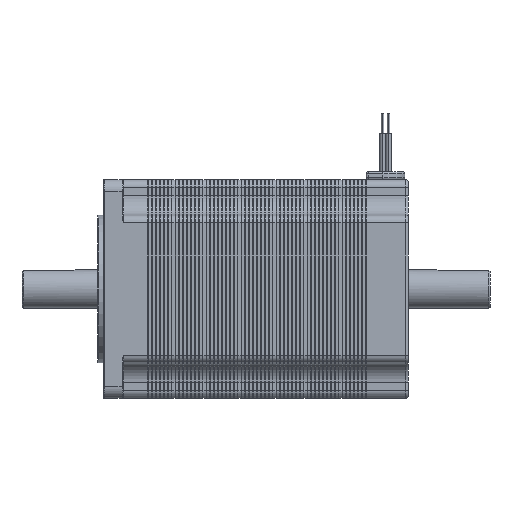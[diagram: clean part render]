
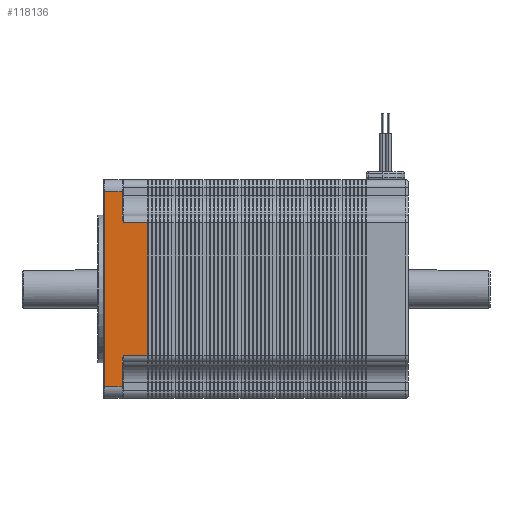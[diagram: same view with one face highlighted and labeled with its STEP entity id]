
A CAD part, left-side view. The second image highlights one B-rep face of the part: STEP entity #118136.
In plain terms, the highlighted planar face has unit normal (-1, 0, 0).
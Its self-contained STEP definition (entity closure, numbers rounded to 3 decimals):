
#779 = VERTEX_POINT ( 'NONE', #185071 ) ;
#841 = CARTESIAN_POINT ( 'NONE',  ( -28.15, 78.5, 17. ) ) ;
#3346 = VERTEX_POINT ( 'NONE', #146123 ) ;
#4201 = DIRECTION ( 'NONE',  ( 0., 0., -1. ) ) ;
#6299 = DIRECTION ( 'NONE',  ( 0., 1., 0. ) ) ;
#9586 = EDGE_CURVE ( 'NONE', #31187, #3346, #57196, .T. ) ;
#9590 = LINE ( 'NONE', #72379, #76345 ) ;
#9665 = ORIENTED_EDGE ( 'NONE', *, *, #19987, .F. ) ;
#15838 = CARTESIAN_POINT ( 'NONE',  ( -28.15, 67.1, -17. ) ) ;
#16555 = VERTEX_POINT ( 'NONE', #177327 ) ;
#19987 = EDGE_CURVE ( 'NONE', #33801, #100882, #60681, .T. ) ;
#27002 = CARTESIAN_POINT ( 'NONE',  ( -28.15, 73.395, -17.201 ) ) ;
#31187 = VERTEX_POINT ( 'NONE', #176881 ) ;
#32083 = CARTESIAN_POINT ( 'NONE',  ( -28.15, 73.7, 18.04 ) ) ;
#33801 = VERTEX_POINT ( 'NONE', #61657 ) ;
#34428 = CARTESIAN_POINT ( 'NONE',  ( -28.15, 73.5, 25.15 ) ) ;
#40560 = CARTESIAN_POINT ( 'NONE',  ( -28.15, 73.7, -18.265 ) ) ;
#43657 = EDGE_CURVE ( 'NONE', #33801, #779, #171264, .T. ) ;
#44074 = ORIENTED_EDGE ( 'NONE', *, *, #87759, .F. ) ;
#44453 = DIRECTION ( 'NONE',  ( 0., -1., 0. ) ) ;
#46023 = AXIS2_PLACEMENT_3D ( 'NONE', #68089, #186249, #112563 ) ;
#48191 = LINE ( 'NONE', #166260, #56355 ) ;
#48364 = EDGE_CURVE ( 'NONE', #169996, #168930, #144089, .T. ) ;
#51295 = CARTESIAN_POINT ( 'NONE',  ( -28.15, 73.7, -17. ) ) ;
#52321 = VERTEX_POINT ( 'NONE', #153207 ) ;
#54519 = EDGE_CURVE ( 'NONE', #99662, #100882, #109581, .T. ) ;
#55051 = CARTESIAN_POINT ( 'NONE',  ( -28.15, 73.3, -17. ) ) ;
#55055 = DIRECTION ( 'NONE',  ( 0., 0., 1. ) ) ;
#55990 = CARTESIAN_POINT ( 'NONE',  ( -28.15, 73.642, -17.823 ) ) ;
#56355 = VECTOR ( 'NONE', #121655, 1000. ) ;
#57196 = B_SPLINE_CURVE_WITH_KNOTS ( 'NONE', 3,
 ( #130861, #179217, #163743, #71720, #32083, #91050 ),
 .UNSPECIFIED., .F., .F.,
 ( 4, 2, 4 ),
 ( 0., 0.001, 0.001 ),
 .UNSPECIFIED. ) ;
#58342 = EDGE_LOOP ( 'NONE', ( #79869, #116336, #9665, #109431, #172762, #167262, #144301, #44074, #127564, #134205 ) ) ;
#60681 = LINE ( 'NONE', #149740, #62108 ) ;
#61657 = CARTESIAN_POINT ( 'NONE',  ( -28.15, 73.7, -25.15 ) ) ;
#62108 = VECTOR ( 'NONE', #89664, 1000. ) ;
#64875 = EDGE_CURVE ( 'NONE', #52321, #99662, #91468, .T. ) ;
#66663 = CARTESIAN_POINT ( 'NONE',  ( -28.15, 67.1, -17. ) ) ;
#68089 = CARTESIAN_POINT ( 'NONE',  ( -28.15, 78.5, -17. ) ) ;
#69038 = FACE_OUTER_BOUND ( 'NONE', #58342, .T. ) ;
#70211 = CARTESIAN_POINT ( 'NONE',  ( -28.15, 67.1, 17. ) ) ;
#71720 = CARTESIAN_POINT ( 'NONE',  ( -28.15, 73.642, 17.823 ) ) ;
#72379 = CARTESIAN_POINT ( 'NONE',  ( -28.15, 73.7, -17. ) ) ;
#76345 = VECTOR ( 'NONE', #85942, 1000. ) ;
#79869 = ORIENTED_EDGE ( 'NONE', *, *, #64875, .T. ) ;
#83930 = EDGE_CURVE ( 'NONE', #3346, #52321, #9590, .T. ) ;
#85942 = DIRECTION ( 'NONE',  ( 0., 0., 1. ) ) ;
#87759 = EDGE_CURVE ( 'NONE', #31187, #168930, #177065, .T. ) ;
#88697 = VECTOR ( 'NONE', #44453, 1000. ) ;
#89664 = DIRECTION ( 'NONE',  ( 0., 1., 0. ) ) ;
#91050 = CARTESIAN_POINT ( 'NONE',  ( -28.15, 73.7, 18.265 ) ) ;
#91468 = LINE ( 'NONE', #34428, #119615 ) ;
#96636 = DIRECTION ( 'NONE',  ( 0., 0., 1. ) ) ;
#99662 = VERTEX_POINT ( 'NONE', #130060 ) ;
#100882 = VERTEX_POINT ( 'NONE', #134618 ) ;
#105109 = VECTOR ( 'NONE', #96636, 1000. ) ;
#109431 = ORIENTED_EDGE ( 'NONE', *, *, #43657, .T. ) ;
#109581 = LINE ( 'NONE', #168798, #158817 ) ;
#112079 = CARTESIAN_POINT ( 'NONE',  ( -28.15, 73.491, -17.403 ) ) ;
#112563 = DIRECTION ( 'NONE',  ( 0., 0., -1. ) ) ;
#116336 = ORIENTED_EDGE ( 'NONE', *, *, #54519, .T. ) ;
#118136 = ADVANCED_FACE ( 'NONE', ( #69038 ), #138912, .F. ) ;
#119615 = VECTOR ( 'NONE', #6299, 1000. ) ;
#121655 = DIRECTION ( 'NONE',  ( 0., -1., 0. ) ) ;
#121880 = EDGE_CURVE ( 'NONE', #779, #16555, #153866, .T. ) ;
#127564 = ORIENTED_EDGE ( 'NONE', *, *, #9586, .T. ) ;
#130060 = CARTESIAN_POINT ( 'NONE',  ( -28.15, 78.3, 25.15 ) ) ;
#130861 = CARTESIAN_POINT ( 'NONE',  ( -28.15, 73.3, 17. ) ) ;
#134205 = ORIENTED_EDGE ( 'NONE', *, *, #83930, .T. ) ;
#134618 = CARTESIAN_POINT ( 'NONE',  ( -28.15, 78.3, -25.15 ) ) ;
#138912 = PLANE ( 'NONE',  #46023 ) ;
#144089 = LINE ( 'NONE', #66663, #152495 ) ;
#144301 = ORIENTED_EDGE ( 'NONE', *, *, #48364, .T. ) ;
#146123 = CARTESIAN_POINT ( 'NONE',  ( -28.15, 73.7, 18.265 ) ) ;
#149740 = CARTESIAN_POINT ( 'NONE',  ( -28.15, 73.5, -25.15 ) ) ;
#152495 = VECTOR ( 'NONE', #55055, 1000. ) ;
#153207 = CARTESIAN_POINT ( 'NONE',  ( -28.15, 73.7, 25.15 ) ) ;
#153866 = B_SPLINE_CURVE_WITH_KNOTS ( 'NONE', 3,
 ( #40560, #186699, #55990, #112079, #27002, #55051 ),
 .UNSPECIFIED., .F., .F.,
 ( 4, 2, 4 ),
 ( 0., 0.001, 0.001 ),
 .UNSPECIFIED. ) ;
#158817 = VECTOR ( 'NONE', #4201, 1000. ) ;
#163743 = CARTESIAN_POINT ( 'NONE',  ( -28.15, 73.491, 17.403 ) ) ;
#166260 = CARTESIAN_POINT ( 'NONE',  ( -28.15, 78.5, -17. ) ) ;
#167262 = ORIENTED_EDGE ( 'NONE', *, *, #189625, .T. ) ;
#168798 = CARTESIAN_POINT ( 'NONE',  ( -28.15, 78.3, -25.15 ) ) ;
#168930 = VERTEX_POINT ( 'NONE', #70211 ) ;
#169996 = VERTEX_POINT ( 'NONE', #15838 ) ;
#171264 = LINE ( 'NONE', #51295, #105109 ) ;
#172762 = ORIENTED_EDGE ( 'NONE', *, *, #121880, .T. ) ;
#176881 = CARTESIAN_POINT ( 'NONE',  ( -28.15, 73.3, 17. ) ) ;
#177065 = LINE ( 'NONE', #841, #88697 ) ;
#177327 = CARTESIAN_POINT ( 'NONE',  ( -28.15, 73.3, -17. ) ) ;
#179217 = CARTESIAN_POINT ( 'NONE',  ( -28.15, 73.395, 17.202 ) ) ;
#185071 = CARTESIAN_POINT ( 'NONE',  ( -28.15, 73.7, -18.265 ) ) ;
#186249 = DIRECTION ( 'NONE',  ( 1., 0., 0. ) ) ;
#186699 = CARTESIAN_POINT ( 'NONE',  ( -28.15, 73.7, -18.04 ) ) ;
#189625 = EDGE_CURVE ( 'NONE', #16555, #169996, #48191, .T. ) ;
